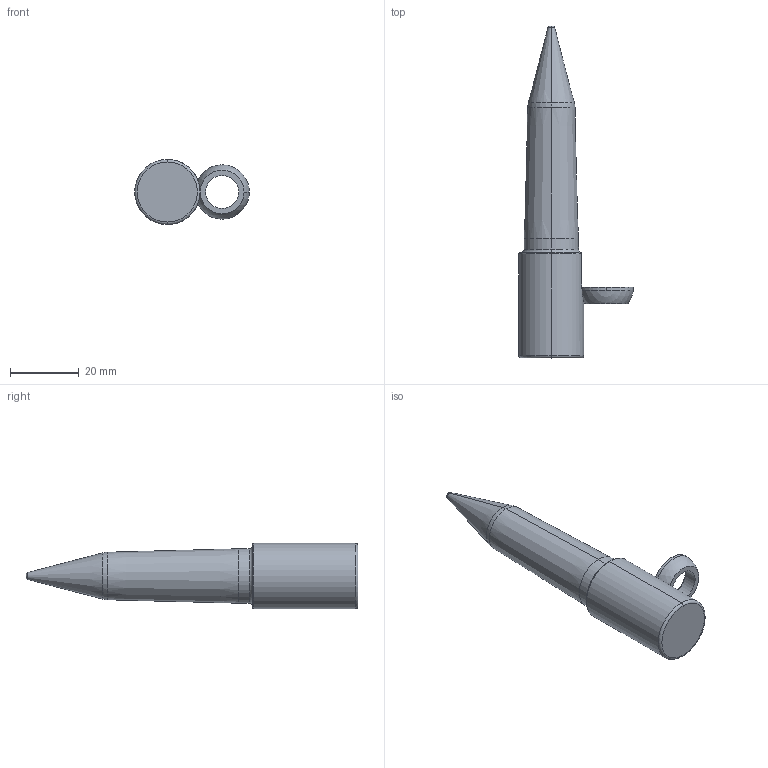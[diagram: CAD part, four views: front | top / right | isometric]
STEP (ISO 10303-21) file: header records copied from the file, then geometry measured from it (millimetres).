
FILE_DESCRIPTION (( 'STEP AP214' ), '1' );
FILE_NAME ('PA-T-.625-.125-1.5-3-A-F1.STEP', '2019-05-08T17:39:16', ( '' ), ( '' ), 'SwSTEP 2.0', 'SolidWorks 2017', '' );
FILE_SCHEMA (( 'AUTOMOTIVE_DESIGN' ));
Length unit declared in the file: inch
Products named in the file (3): SLRadiusWasher_RadiusWasher-E; SLPilot-PA-T-E_PA-T-.625-.125-1.5-3-A-F1; PA-T-.625-.125-1.5-3-A-F1
Assembly tree (2 placements, depth 2):
  PA-T-.625-.125-1.5-3-A-F1
    SLPilot-PA-T-E_PA-T-.625-.125-1.5-3-A-F1
    SLRadiusWasher_RadiusWasher-E
Bounding box: 33.46 x 96.85 x 19.05 mm (x, y, z)
Volume: 18043.5 mm3; surface area: 5316.2 mm2
Topology: 2 solids, 2 shells, 35 faces, 77 edges, 46 vertices
Faces by surface type: torus 11, cylinder 9, cone 6, plane 5, sphere 4
Entity records: 1168 total; most frequent: CARTESIAN_POINT 234, DIRECTION 208, ORIENTED_EDGE 154, AXIS2_PLACEMENT_3D 96, EDGE_CURVE 77, CIRCLE 56, VERTEX_POINT 46, EDGE_LOOP 37
